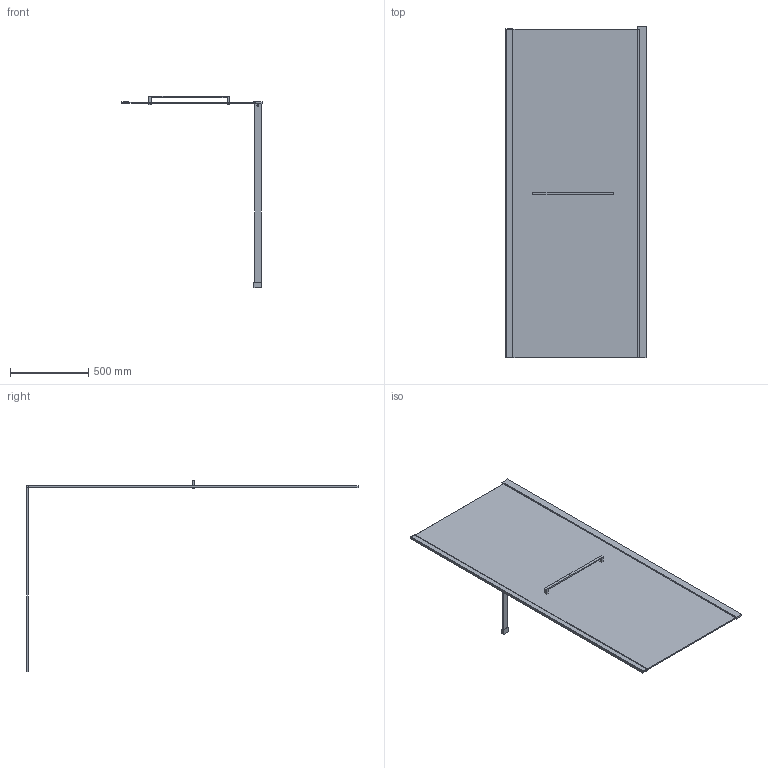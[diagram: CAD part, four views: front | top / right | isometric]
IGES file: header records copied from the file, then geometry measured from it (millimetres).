
Start section: SolidWorks IGES file using analytic representation for surfaces
Global section: file name: D:\Users\M.Szymanski\Desktop\Kabiny\PI_ALTIIa\PI_ALTIIa_90_wspornik poziomy_K3D.IGS; native system: SolidWorks 2011; preprocessor: SolidWorks 2011; author: M.Szymanski; date: 181002.135912; units: millimetre
Bounding box: 896.4 x 2124.7 x 1223.1 mm (x, y, z)
Surface area: 4448158.3 mm2 (no closed solid volume)
Topology: 0 solids, 0 shells, 56 faces, 367 edges, 477 vertices
Faces by surface type: bspline 52, revolution 4
